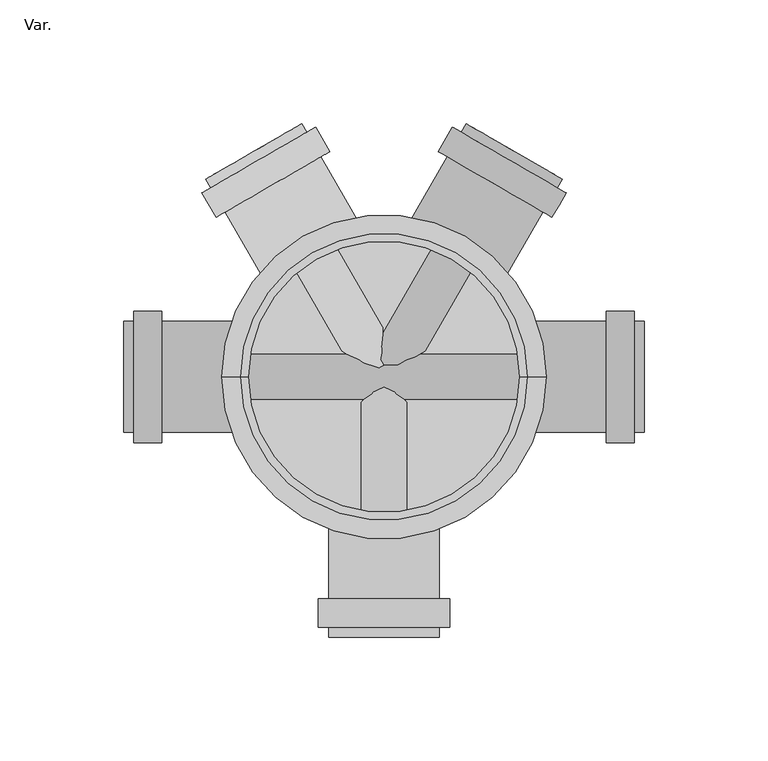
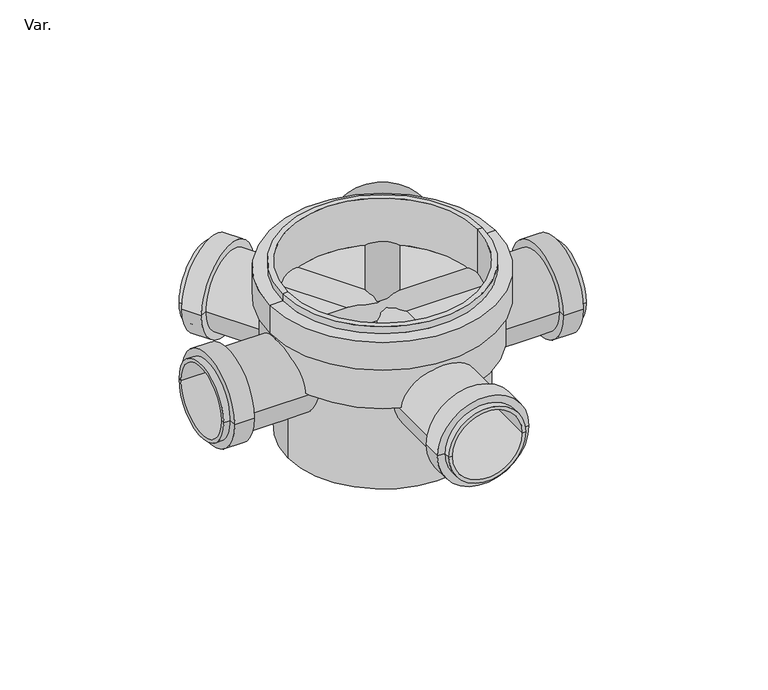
"""IFC4 building model written with IfcOpenShell, lengths in millimetres: pipe fitting geometry, Z_Amanco PP Silentium Pileta Giratoria 5 Entradas (Nested) : Var.."""

from ifc_helpers import new_model, si_unit, frame, origin, place, context, project, spatial, polyline, circle_curve, source, transform, mapped, element, save
from ifc_brep_helpers import plane_surface, cylinder_surface, revolved_surface, advanced_brep


def var_e0a8e4cc(model_context):
    return source(origin(), model_context, "Body", "AdvancedBrep", [
        advanced_brep(
        [(62.15, -20.4, -52.1), (62.15, 20.4, -52.1), (62.15, 0.0, -52.1), (105.15, -20.4, -52.1), (105.15, 20.4, -52.1), (105.15, -22.35, -52.1), (105.15, 22.35, -52.1), (101.15, -22.35, -52.1), (101.15, 22.35, -52.1), (101.15, -26.55, -52.1), (101.15, 26.55, -52.1), (89.75, -26.55, -52.1), (89.75, 26.55, -52.1), (89.75, -22.35, -52.1), (89.75, 22.35, -52.1), (-89.75, -22.35, -52.1), (-89.75, 22.35, -52.1), (-89.75, -26.55, -52.1), (-89.75, 26.55, -52.1), (-101.15, -26.55, -52.1), (-101.15, 26.55, -52.1), (-101.15, -22.35, -52.1), (-101.15, 22.35, -52.1), (-105.15, -22.35, -52.1), (-105.15, 22.35, -52.1), (-105.15, -20.4, -52.1), (-105.15, 20.4, -52.1), (-62.15, -20.4, -52.1), (-62.15, 20.4, -52.1), (-62.15, 0.0, -52.1)],
        [
            (0, 1, circle_curve(frame((62.15, 0.0, -52.1), z_axis=(1.0, 0.0, 0.0), x_axis=(0.0, 1.0, 0.0)), 20.4)),
            (1, 2),
            (2, 0),
            (1, 0, circle_curve(frame((62.15, 0.0, -52.1), z_axis=(1.0, 0.0, 0.0), x_axis=(0.0, 1.0, 0.0)), 20.4)),
            (3, 4, circle_curve(frame((105.15, 0.0, -52.1), z_axis=(1.0, 0.0, 0.0), x_axis=(0.0, 1.0, 0.0)), 20.4)),
            (4, 1),
            (0, 3),
            (4, 3, circle_curve(frame((105.15, 0.0, -52.1), z_axis=(1.0, 0.0, 0.0), x_axis=(0.0, 1.0, 0.0)), 20.4)),
            (5, 6, circle_curve(frame((105.15, 0.0, -52.1), z_axis=(1.0, 0.0, 0.0), x_axis=(0.0, 1.0, 0.0)), 22.35)),
            (6, 4),
            (3, 5),
            (6, 5, circle_curve(frame((105.15, 0.0, -52.1), z_axis=(1.0, 0.0, 0.0), x_axis=(0.0, 1.0, 0.0)), 22.35)),
            (7, 8, circle_curve(frame((101.15, 0.0, -52.1), z_axis=(1.0, 0.0, 0.0), x_axis=(0.0, 1.0, 0.0)), 22.35)),
            (8, 6),
            (5, 7),
            (8, 7, circle_curve(frame((101.15, 0.0, -52.1), z_axis=(1.0, 0.0, 0.0), x_axis=(0.0, 1.0, 0.0)), 22.35)),
            (9, 10, circle_curve(frame((101.15, 0.0, -52.1), z_axis=(1.0, 0.0, 0.0), x_axis=(0.0, 1.0, 0.0)), 26.55)),
            (10, 8),
            (7, 9),
            (10, 9, circle_curve(frame((101.15, 0.0, -52.1), z_axis=(1.0, 0.0, 0.0), x_axis=(0.0, 1.0, 0.0)), 26.55)),
            (11, 12, circle_curve(frame((89.75, 0.0, -52.1), z_axis=(1.0, 0.0, 0.0), x_axis=(0.0, 1.0, 0.0)), 26.55)),
            (12, 10),
            (9, 11),
            (12, 11, circle_curve(frame((89.75, 0.0, -52.1), z_axis=(1.0, 0.0, 0.0), x_axis=(0.0, 1.0, 0.0)), 26.55)),
            (13, 14, circle_curve(frame((89.75, 0.0, -52.1), z_axis=(1.0, 0.0, 0.0), x_axis=(0.0, 1.0, 0.0)), 22.35)),
            (14, 12),
            (11, 13),
            (14, 13, circle_curve(frame((89.75, 0.0, -52.1), z_axis=(1.0, 0.0, 0.0), x_axis=(0.0, 1.0, 0.0)), 22.35)),
            (15, 16, circle_curve(frame((-89.75, 0.0, -52.1), z_axis=(1.0, 0.0, 0.0), x_axis=(0.0, 1.0, 0.0)), 22.35)),
            (16, 14),
            (13, 15),
            (16, 15, circle_curve(frame((-89.75, 0.0, -52.1), z_axis=(1.0, 0.0, 0.0), x_axis=(0.0, 1.0, 0.0)), 22.35)),
            (17, 18, circle_curve(frame((-89.75, 0.0, -52.1), z_axis=(1.0, 0.0, 0.0), x_axis=(0.0, 1.0, 0.0)), 26.55)),
            (18, 16),
            (15, 17),
            (18, 17, circle_curve(frame((-89.75, 0.0, -52.1), z_axis=(1.0, 0.0, 0.0), x_axis=(0.0, 1.0, 0.0)), 26.55)),
            (19, 20, circle_curve(frame((-101.15, 0.0, -52.1), z_axis=(1.0, 0.0, 0.0), x_axis=(0.0, 1.0, 0.0)), 26.55)),
            (20, 18),
            (17, 19),
            (20, 19, circle_curve(frame((-101.15, 0.0, -52.1), z_axis=(1.0, 0.0, 0.0), x_axis=(0.0, 1.0, 0.0)), 26.55)),
            (21, 22, circle_curve(frame((-101.15, 0.0, -52.1), z_axis=(1.0, 0.0, 0.0), x_axis=(0.0, 1.0, 0.0)), 22.35)),
            (22, 20),
            (19, 21),
            (22, 21, circle_curve(frame((-101.15, 0.0, -52.1), z_axis=(1.0, 0.0, 0.0), x_axis=(0.0, 1.0, 0.0)), 22.35)),
            (23, 24, circle_curve(frame((-105.15, 0.0, -52.1), z_axis=(1.0, 0.0, 0.0), x_axis=(0.0, 1.0, 0.0)), 22.35)),
            (24, 22),
            (21, 23),
            (24, 23, circle_curve(frame((-105.15, 0.0, -52.1), z_axis=(1.0, 0.0, 0.0), x_axis=(0.0, 1.0, 0.0)), 22.35)),
            (25, 26, circle_curve(frame((-105.15, 0.0, -52.1), z_axis=(1.0, 0.0, 0.0), x_axis=(0.0, 1.0, 0.0)), 20.4)),
            (26, 24),
            (23, 25),
            (26, 25, circle_curve(frame((-105.15, 0.0, -52.1), z_axis=(1.0, 0.0, 0.0), x_axis=(0.0, 1.0, 0.0)), 20.4)),
            (27, 28, circle_curve(frame((-62.15, 0.0, -52.1), z_axis=(1.0, 0.0, 0.0), x_axis=(0.0, 1.0, 0.0)), 20.4)),
            (28, 26),
            (25, 27),
            (28, 27, circle_curve(frame((-62.15, 0.0, -52.1), z_axis=(1.0, 0.0, 0.0), x_axis=(0.0, 1.0, 0.0)), 20.4)),
            (29, 28),
            (27, 29),
        ],
        [
            plane_surface(frame((62.15, 0.0, -52.1), z_axis=(1.0, 0.0, 0.0), x_axis=(0.0, 1.0, 0.0))),
            revolved_surface(polyline([(62.15, 20.4, -52.1), (105.15, 20.4, -52.1)]), (62.15, 0.0, -52.1), (-1.0, 0.0, 0.0)),
            plane_surface(frame((105.15, 0.0, -52.1), z_axis=(1.0, 0.0, 0.0), x_axis=(0.0, 1.0, 0.0))),
            cylinder_surface(frame((62.15, 0.0, -52.1), z_axis=(-1.0, 0.0, 0.0), x_axis=(0.0, 1.0, 0.0)), 22.35),
            plane_surface(frame((101.15, 0.0, -52.1), z_axis=(1.0, 0.0, 0.0), x_axis=(0.0, 1.0, 0.0))),
            cylinder_surface(frame((62.15, 0.0, -52.1), z_axis=(-1.0, 0.0, 0.0), x_axis=(0.0, 1.0, 0.0)), 26.55),
            plane_surface(frame((89.75, 0.0, -52.1), z_axis=(-1.0, 0.0, 0.0), x_axis=(0.0, 1.0, 0.0))),
            plane_surface(frame((-89.75, 0.0, -52.1), z_axis=(1.0, 0.0, 0.0), x_axis=(0.0, 1.0, 0.0))),
            plane_surface(frame((-101.15, 0.0, -52.1), z_axis=(-1.0, 0.0, 0.0), x_axis=(0.0, 1.0, 0.0))),
            plane_surface(frame((-105.15, 0.0, -52.1), z_axis=(-1.0, 0.0, 0.0), x_axis=(0.0, 1.0, 0.0))),
            revolved_surface(polyline([(-105.15, 20.4, -52.1), (-62.15, 20.4, -52.1)]), (62.15, 0.0, -52.1), (-1.0, 0.0, 0.0)),
            plane_surface(frame((-62.15, 0.0, -52.1), z_axis=(-1.0, 0.0, 0.0), x_axis=(0.0, 1.0, 0.0))),
        ],
        [
            (0, [[1, 2, 3]]),
            (0, [[4, -3, -2]]),
            (1, [[5, 6, -1, 7]]),
            (1, [[8, -7, -4, -6]]),
            (2, [[9, 10, -5, 11]]),
            (2, [[12, -11, -8, -10]]),
            (3, [[13, 14, -9, 15]]),
            (3, [[16, -15, -12, -14]]),
            (4, [[17, 18, -13, 19]]),
            (4, [[20, -19, -16, -18]]),
            (5, [[21, 22, -17, 23]]),
            (5, [[24, -23, -20, -22]]),
            (6, [[25, 26, -21, 27]]),
            (6, [[28, -27, -24, -26]]),
            (3, [[29, 30, -25, 31]]),
            (3, [[32, -31, -28, -30]]),
            (7, [[33, 34, -29, 35]]),
            (7, [[36, -35, -32, -34]]),
            (5, [[37, 38, -33, 39]]),
            (5, [[40, -39, -36, -38]]),
            (8, [[41, 42, -37, 43]]),
            (8, [[44, -43, -40, -42]]),
            (3, [[45, 46, -41, 47]]),
            (3, [[48, -47, -44, -46]]),
            (9, [[49, 50, -45, 51]]),
            (9, [[52, -51, -48, -50]]),
            (10, [[53, 54, -49, 55]]),
            (10, [[56, -55, -52, -54]]),
            (11, [[57, -53, 58]]),
            (11, [[-58, -56, -57]]),
        ],
    ),
        advanced_brep(
        [(-19.3556678, 11.175, -52.1), (19.3556678, -11.175, -52.1), (0.0, 0.0, -52.1), (25.5193322, 88.90078, -52.1), (64.2306678, 66.55078, -52.1), (21.8820255, 91.00078, -52.1), (67.8679745, 64.45078, -52.1), (27.5820255, 100.8734696, -52.1), (73.5679745, 74.3234696, -52.1), (31.2193322, 98.7734696, -52.1), (69.9306678, 76.4234696, -52.1), (33.2193322, 102.2375712, -52.1), (71.9306678, 79.8875712, -52.1), (34.9080818, 101.2625712, -52.1), (70.2419182, 80.8625712, -52.1), (13.4080818, 64.0234788, -52.1), (48.7419182, 43.6234788, -52.1), (31.075, 53.8234788, -52.1)],
        [
            (0, 1, circle_curve(frame((0.0, 0.0, -52.1), z_axis=(-0.5000000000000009, -0.8660254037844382, 0.0), x_axis=(0.8660254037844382, -0.5000000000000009, 0.0)), 22.35)),
            (1, 2),
            (2, 0),
            (1, 0, circle_curve(frame((0.0, 0.0, -52.1), z_axis=(-0.5000000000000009, -0.8660254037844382, 0.0), x_axis=(0.8660254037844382, -0.5000000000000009, 0.0)), 22.35)),
            (3, 4, circle_curve(frame((44.875, 77.72578, -52.1), z_axis=(-0.5000000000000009, -0.8660254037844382, 0.0), x_axis=(0.8660254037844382, -0.5000000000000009, 0.0)), 22.35)),
            (4, 1),
            (0, 3),
            (4, 3, circle_curve(frame((44.875, 77.72578, -52.1), z_axis=(-0.5000000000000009, -0.8660254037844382, 0.0), x_axis=(0.8660254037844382, -0.5000000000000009, 0.0)), 22.35)),
            (5, 6, circle_curve(frame((44.875, 77.72578, -52.1), z_axis=(-0.5000000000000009, -0.8660254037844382, 0.0), x_axis=(0.8660254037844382, -0.5000000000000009, 0.0)), 26.55)),
            (6, 4),
            (3, 5),
            (6, 5, circle_curve(frame((44.875, 77.72578, -52.1), z_axis=(-0.5000000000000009, -0.8660254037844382, 0.0), x_axis=(0.8660254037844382, -0.5000000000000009, 0.0)), 26.55)),
            (7, 8, circle_curve(frame((50.575, 87.5984696, -52.1), z_axis=(-0.5000000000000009, -0.8660254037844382, 0.0), x_axis=(0.8660254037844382, -0.5000000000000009, 0.0)), 26.55)),
            (8, 6),
            (5, 7),
            (8, 7, circle_curve(frame((50.575, 87.5984696, -52.1), z_axis=(-0.5000000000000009, -0.8660254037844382, 0.0), x_axis=(0.8660254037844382, -0.5000000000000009, 0.0)), 26.55)),
            (9, 10, circle_curve(frame((50.575, 87.5984696, -52.1), z_axis=(-0.5000000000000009, -0.8660254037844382, 0.0), x_axis=(0.8660254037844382, -0.5000000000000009, 0.0)), 22.35)),
            (10, 8),
            (7, 9),
            (10, 9, circle_curve(frame((50.575, 87.5984696, -52.1), z_axis=(-0.5000000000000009, -0.8660254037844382, 0.0), x_axis=(0.8660254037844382, -0.5000000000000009, 0.0)), 22.35)),
            (11, 12, circle_curve(frame((52.575, 91.0625712, -52.1), z_axis=(-0.5000000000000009, -0.8660254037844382, 0.0), x_axis=(0.8660254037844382, -0.5000000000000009, 0.0)), 22.35)),
            (12, 10),
            (9, 11),
            (12, 11, circle_curve(frame((52.575, 91.0625712, -52.1), z_axis=(-0.5000000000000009, -0.8660254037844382, 0.0), x_axis=(0.8660254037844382, -0.5000000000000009, 0.0)), 22.35)),
            (13, 14, circle_curve(frame((52.575, 91.0625712, -52.1), z_axis=(-0.5000000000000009, -0.8660254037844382, 0.0), x_axis=(0.8660254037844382, -0.5000000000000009, 0.0)), 20.4)),
            (14, 12),
            (11, 13),
            (14, 13, circle_curve(frame((52.575, 91.0625712, -52.1), z_axis=(-0.5000000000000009, -0.8660254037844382, 0.0), x_axis=(0.8660254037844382, -0.5000000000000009, 0.0)), 20.4)),
            (15, 16, circle_curve(frame((31.075, 53.8234788, -52.1), z_axis=(-0.5000000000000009, -0.8660254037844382, 0.0), x_axis=(0.8660254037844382, -0.5000000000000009, 0.0)), 20.4)),
            (16, 14),
            (13, 15),
            (16, 15, circle_curve(frame((31.075, 53.8234788, -52.1), z_axis=(-0.5000000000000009, -0.8660254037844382, 0.0), x_axis=(0.8660254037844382, -0.5000000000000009, 0.0)), 20.4)),
            (17, 16),
            (15, 17),
        ],
        [
            plane_surface(frame((0.0, 0.0, -52.1), z_axis=(-0.5000000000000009, -0.8660254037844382, 0.0), x_axis=(0.8660254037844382, -0.5000000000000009, 0.0))),
            cylinder_surface(frame((0.0, 0.0, -52.1), z_axis=(0.5000000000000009, 0.8660254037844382, 0.0), x_axis=(0.8660254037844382, -0.5000000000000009, 0.0)), 22.35),
            plane_surface(frame((44.875, 77.72578, -52.1), z_axis=(-0.5000000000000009, -0.8660254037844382, 0.0), x_axis=(0.8660254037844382, -0.5000000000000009, 0.0))),
            cylinder_surface(frame((0.0, 0.0, -52.1), z_axis=(0.5000000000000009, 0.8660254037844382, 0.0), x_axis=(0.8660254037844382, -0.5000000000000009, 0.0)), 26.55),
            plane_surface(frame((50.575, 87.5984696, -52.1), z_axis=(0.5000000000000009, 0.8660254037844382, 0.0), x_axis=(0.8660254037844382, -0.5000000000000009, 0.0))),
            plane_surface(frame((52.575, 91.0625712, -52.1), z_axis=(0.5000000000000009, 0.8660254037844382, 0.0), x_axis=(0.8660254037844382, -0.5000000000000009, 0.0))),
            revolved_surface(polyline([(70.24191824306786, 80.86257121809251, -52.1), (48.741918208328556, 43.62347879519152, -52.1)]), (0.0, 0.0, -52.1), (0.5000000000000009, 0.8660254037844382, 0.0)),
            plane_surface(frame((31.075, 53.8234788, -52.1), z_axis=(0.5000000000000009, 0.8660254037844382, 0.0), x_axis=(0.8660254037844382, -0.5000000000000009, 0.0))),
        ],
        [
            (0, [[1, 2, 3]]),
            (0, [[4, -3, -2]]),
            (1, [[5, 6, -1, 7]]),
            (1, [[8, -7, -4, -6]]),
            (2, [[9, 10, -5, 11]]),
            (2, [[12, -11, -8, -10]]),
            (3, [[13, 14, -9, 15]]),
            (3, [[16, -15, -12, -14]]),
            (4, [[17, 18, -13, 19]]),
            (4, [[20, -19, -16, -18]]),
            (1, [[21, 22, -17, 23]]),
            (1, [[24, -23, -20, -22]]),
            (5, [[25, 26, -21, 27]]),
            (5, [[28, -27, -24, -26]]),
            (6, [[29, 30, -25, 31]]),
            (6, [[32, -31, -28, -30]]),
            (7, [[33, -29, 34]]),
            (7, [[-34, -32, -33]]),
        ],
    ),
        advanced_brep(
        [(-13.4080818, 64.0234788, -52.1), (-48.7419182, 43.6234788, -52.1), (-31.075, 53.8234788, -52.1), (-34.9080818, 101.2625712, -52.1), (-70.2419182, 80.8625712, -52.1), (-33.2193322, 102.2375712, -52.1), (-71.9306678, 79.8875712, -52.1), (-31.2193322, 98.7734696, -52.1), (-69.9306678, 76.4234696, -52.1), (-27.5820255, 100.8734696, -52.1), (-73.5679745, 74.3234696, -52.1), (-21.8820255, 91.00078, -52.1), (-67.8679745, 64.45078, -52.1), (-25.5193322, 88.90078, -52.1), (-64.2306678, 66.55078, -52.1), (19.3556678, 11.175, -52.1), (-19.3556678, -11.175, -52.1), (0.0, 0.0, -52.1)],
        [
            (0, 1, circle_curve(frame((-31.075, 53.8234788, -52.1), z_axis=(-0.5000000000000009, 0.8660254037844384, 0.0), x_axis=(-0.8660254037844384, -0.5000000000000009, 0.0)), 20.4)),
            (1, 2),
            (2, 0),
            (1, 0, circle_curve(frame((-31.075, 53.8234788, -52.1), z_axis=(-0.5000000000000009, 0.8660254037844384, 0.0), x_axis=(-0.8660254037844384, -0.5000000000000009, 0.0)), 20.4)),
            (3, 4, circle_curve(frame((-52.575, 91.0625712, -52.1), z_axis=(-0.5000000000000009, 0.8660254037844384, 0.0), x_axis=(-0.8660254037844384, -0.5000000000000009, 0.0)), 20.4)),
            (4, 1),
            (0, 3),
            (4, 3, circle_curve(frame((-52.575, 91.0625712, -52.1), z_axis=(-0.5000000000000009, 0.8660254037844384, 0.0), x_axis=(-0.8660254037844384, -0.5000000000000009, 0.0)), 20.4)),
            (5, 6, circle_curve(frame((-52.575, 91.0625712, -52.1), z_axis=(-0.5000000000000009, 0.8660254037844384, 0.0), x_axis=(-0.8660254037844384, -0.5000000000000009, 0.0)), 22.35)),
            (6, 4),
            (3, 5),
            (6, 5, circle_curve(frame((-52.575, 91.0625712, -52.1), z_axis=(-0.5000000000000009, 0.8660254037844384, 0.0), x_axis=(-0.8660254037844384, -0.5000000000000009, 0.0)), 22.35)),
            (7, 8, circle_curve(frame((-50.575, 87.5984696, -52.1), z_axis=(-0.5000000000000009, 0.8660254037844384, 0.0), x_axis=(-0.8660254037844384, -0.5000000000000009, 0.0)), 22.35)),
            (8, 6),
            (5, 7),
            (8, 7, circle_curve(frame((-50.575, 87.5984696, -52.1), z_axis=(-0.5000000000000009, 0.8660254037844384, 0.0), x_axis=(-0.8660254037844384, -0.5000000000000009, 0.0)), 22.35)),
            (9, 10, circle_curve(frame((-50.575, 87.5984696, -52.1), z_axis=(-0.5000000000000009, 0.8660254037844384, 0.0), x_axis=(-0.8660254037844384, -0.5000000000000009, 0.0)), 26.55)),
            (10, 8),
            (7, 9),
            (10, 9, circle_curve(frame((-50.575, 87.5984696, -52.1), z_axis=(-0.5000000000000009, 0.8660254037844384, 0.0), x_axis=(-0.8660254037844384, -0.5000000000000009, 0.0)), 26.55)),
            (11, 12, circle_curve(frame((-44.875, 77.72578, -52.1), z_axis=(-0.5000000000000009, 0.8660254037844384, 0.0), x_axis=(-0.8660254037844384, -0.5000000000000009, 0.0)), 26.55)),
            (12, 10),
            (9, 11),
            (12, 11, circle_curve(frame((-44.875, 77.72578, -52.1), z_axis=(-0.5000000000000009, 0.8660254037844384, 0.0), x_axis=(-0.8660254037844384, -0.5000000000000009, 0.0)), 26.55)),
            (13, 14, circle_curve(frame((-44.875, 77.72578, -52.1), z_axis=(-0.5000000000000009, 0.8660254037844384, 0.0), x_axis=(-0.8660254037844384, -0.5000000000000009, 0.0)), 22.35)),
            (14, 12),
            (11, 13),
            (14, 13, circle_curve(frame((-44.875, 77.72578, -52.1), z_axis=(-0.5000000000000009, 0.8660254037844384, 0.0), x_axis=(-0.8660254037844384, -0.5000000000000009, 0.0)), 22.35)),
            (15, 16, circle_curve(frame((0.0, 0.0, -52.1), z_axis=(-0.5000000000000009, 0.8660254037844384, 0.0), x_axis=(-0.8660254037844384, -0.5000000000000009, 0.0)), 22.35)),
            (16, 14),
            (13, 15),
            (16, 15, circle_curve(frame((0.0, 0.0, -52.1), z_axis=(-0.5000000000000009, 0.8660254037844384, 0.0), x_axis=(-0.8660254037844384, -0.5000000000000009, 0.0)), 22.35)),
            (17, 16),
            (15, 17),
        ],
        [
            plane_surface(frame((-31.075, 53.8234788, -52.1), z_axis=(-0.5000000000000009, 0.8660254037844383, 0.0), x_axis=(-0.8660254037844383, -0.5000000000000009, 0.0))),
            revolved_surface(polyline([(-48.741918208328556, 43.62347879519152, -52.1), (-70.24191824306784, 80.86257121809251, -52.1)]), (0.0, 0.0, -52.1), (0.5000000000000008, -0.8660254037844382, 0.0)),
            plane_surface(frame((-52.575, 91.0625712, -52.1), z_axis=(-0.5000000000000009, 0.8660254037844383, 0.0), x_axis=(-0.8660254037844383, -0.5000000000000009, 0.0))),
            cylinder_surface(frame((0.0, 0.0, -52.1), z_axis=(0.5000000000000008, -0.8660254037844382, 0.0), x_axis=(-0.8660254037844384, -0.5000000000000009, 0.0)), 22.35),
            plane_surface(frame((-50.575, 87.5984696, -52.1), z_axis=(-0.5000000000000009, 0.8660254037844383, 0.0), x_axis=(-0.8660254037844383, -0.5000000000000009, 0.0))),
            cylinder_surface(frame((0.0, 0.0, -52.1), z_axis=(0.5000000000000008, -0.8660254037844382, 0.0), x_axis=(-0.8660254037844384, -0.5000000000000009, 0.0)), 26.55),
            plane_surface(frame((-44.875, 77.72578, -52.1), z_axis=(0.5000000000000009, -0.8660254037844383, 0.0), x_axis=(-0.8660254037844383, -0.5000000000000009, 0.0))),
            plane_surface(frame((0.0, 0.0, -52.1), z_axis=(0.5000000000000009, -0.8660254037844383, 0.0), x_axis=(-0.8660254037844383, -0.5000000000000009, 0.0))),
        ],
        [
            (0, [[1, 2, 3]]),
            (0, [[4, -3, -2]]),
            (1, [[5, 6, -1, 7]]),
            (1, [[8, -7, -4, -6]]),
            (2, [[9, 10, -5, 11]]),
            (2, [[12, -11, -8, -10]]),
            (3, [[13, 14, -9, 15]]),
            (3, [[16, -15, -12, -14]]),
            (4, [[17, 18, -13, 19]]),
            (4, [[20, -19, -16, -18]]),
            (5, [[21, 22, -17, 23]]),
            (5, [[24, -23, -20, -22]]),
            (6, [[25, 26, -21, 27]]),
            (6, [[28, -27, -24, -26]]),
            (3, [[29, 30, -25, 31]]),
            (3, [[32, -31, -28, -30]]),
            (7, [[33, -29, 34]]),
            (7, [[-34, -32, -33]]),
        ],
    ),
        advanced_brep(
        [(20.4, -105.15, -52.1), (-20.4, -105.15, -52.1), (-22.35, -105.15, -52.1), (22.35, -105.15, -52.1), (20.4, -62.15, -52.1), (-20.4, -62.15, -52.1), (0.0, -62.15, -52.1), (22.35, 0.0, -52.1), (-22.35, 0.0, -52.1), (0.0, 0.0, -52.1), (22.35, -89.75, -52.1), (-22.35, -89.75, -52.1), (26.55, -89.75, -52.1), (-26.55, -89.75, -52.1), (26.55, -101.15, -52.1), (-26.55, -101.15, -52.1), (22.35, -101.15, -52.1), (-22.35, -101.15, -52.1)],
        [
            (0, 1, circle_curve(frame((0.0, -105.15, -52.1), z_axis=(0.0, 1.0, 0.0), x_axis=(-1.0, 0.0, 0.0)), 20.4)),
            (1, 2),
            (2, 3, circle_curve(frame((0.0, -105.15, -52.1), z_axis=(0.0, -1.0, 0.0), x_axis=(-1.0, 0.0, 0.0)), 22.35)),
            (3, 0),
            (1, 0, circle_curve(frame((0.0, -105.15, -52.1), z_axis=(0.0, 1.0, 0.0), x_axis=(-1.0, 0.0, 0.0)), 20.4)),
            (3, 2, circle_curve(frame((0.0, -105.15, -52.1), z_axis=(0.0, -1.0, 0.0), x_axis=(-1.0, 0.0, 0.0)), 22.35)),
            (4, 5, circle_curve(frame((0.0, -62.15, -52.1), z_axis=(0.0, 1.0, 0.0), x_axis=(-1.0, 0.0, 0.0)), 20.4)),
            (5, 1),
            (0, 4),
            (5, 4, circle_curve(frame((0.0, -62.15, -52.1), z_axis=(0.0, 1.0, 0.0), x_axis=(-1.0, 0.0, 0.0)), 20.4)),
            (6, 5),
            (4, 6),
            (7, 8, circle_curve(frame((0.0, 0.0, -52.1), z_axis=(0.0, 1.0, 0.0), x_axis=(-1.0, 0.0, 0.0)), 22.35)),
            (8, 9),
            (9, 7),
            (8, 7, circle_curve(frame((0.0, 0.0, -52.1), z_axis=(0.0, 1.0, 0.0), x_axis=(-1.0, 0.0, 0.0)), 22.35)),
            (10, 11, circle_curve(frame((0.0, -89.75, -52.1), z_axis=(0.0, 1.0, 0.0), x_axis=(-1.0, 0.0, 0.0)), 22.35)),
            (11, 8),
            (7, 10),
            (11, 10, circle_curve(frame((0.0, -89.75, -52.1), z_axis=(0.0, 1.0, 0.0), x_axis=(-1.0, 0.0, 0.0)), 22.35)),
            (12, 13, circle_curve(frame((0.0, -89.75, -52.1), z_axis=(0.0, 1.0, 0.0), x_axis=(-1.0, 0.0, 0.0)), 26.55)),
            (13, 11),
            (10, 12),
            (13, 12, circle_curve(frame((0.0, -89.75, -52.1), z_axis=(0.0, 1.0, 0.0), x_axis=(-1.0, 0.0, 0.0)), 26.55)),
            (14, 15, circle_curve(frame((0.0, -101.15, -52.1), z_axis=(0.0, 1.0, 0.0), x_axis=(-1.0, 0.0, 0.0)), 26.55)),
            (15, 13),
            (12, 14),
            (15, 14, circle_curve(frame((0.0, -101.15, -52.1), z_axis=(0.0, 1.0, 0.0), x_axis=(-1.0, 0.0, 0.0)), 26.55)),
            (16, 17, circle_curve(frame((0.0, -101.15, -52.1), z_axis=(0.0, 1.0, 0.0), x_axis=(-1.0, 0.0, 0.0)), 22.35)),
            (17, 15),
            (14, 16),
            (17, 16, circle_curve(frame((0.0, -101.15, -52.1), z_axis=(0.0, 1.0, 0.0), x_axis=(-1.0, 0.0, 0.0)), 22.35)),
            (2, 17),
            (16, 3),
        ],
        [
            plane_surface(frame((0.0, -105.15, -52.1), z_axis=(0.0, -1.0, 0.0), x_axis=(-1.0, 0.0, 0.0))),
            revolved_surface(polyline([(-20.4, -105.15000000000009, -52.1), (-20.4, -62.15000000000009, -52.1)]), (0.0, 2000.0, -52.1), (0.0, -1.0, 0.0)),
            plane_surface(frame((0.0, -62.15, -52.1), z_axis=(0.0, -1.0, 0.0), x_axis=(-1.0, 0.0, 0.0))),
            plane_surface(frame((0.0, 0.0, -52.1), z_axis=(0.0, 1.0, 0.0), x_axis=(-1.0, 0.0, 0.0))),
            cylinder_surface(frame((0.0, 2000.0, -52.1), z_axis=(0.0, -1.0, 0.0), x_axis=(-1.0, 0.0, 0.0)), 22.35),
            plane_surface(frame((0.0, -89.75, -52.1), z_axis=(0.0, 1.0, 0.0), x_axis=(-1.0, 0.0, 0.0))),
            cylinder_surface(frame((0.0, 2000.0, -52.1), z_axis=(0.0, -1.0, 0.0), x_axis=(-1.0, 0.0, 0.0)), 26.55),
            plane_surface(frame((0.0, -101.15, -52.1), z_axis=(0.0, -1.0, 0.0), x_axis=(-1.0, 0.0, 0.0))),
        ],
        [
            (0, [[1, 2, 3, 4]]),
            (0, [[5, -4, 6, -2]]),
            (1, [[7, 8, -1, 9]]),
            (1, [[10, -9, -5, -8]]),
            (2, [[11, -7, 12]]),
            (2, [[-12, -10, -11]]),
            (3, [[13, 14, 15]]),
            (3, [[16, -15, -14]]),
            (4, [[17, 18, -13, 19]]),
            (4, [[20, -19, -16, -18]]),
            (5, [[21, 22, -17, 23]]),
            (5, [[24, -23, -20, -22]]),
            (6, [[25, 26, -21, 27]]),
            (6, [[28, -27, -24, -26]]),
            (7, [[29, 30, -25, 31]]),
            (7, [[32, -31, -28, -30]]),
            (4, [[-3, 33, -29, 34]]),
            (4, [[-6, -34, -32, -33]]),
        ],
    ),
        advanced_brep(
        [(65.5, 0.0, -7.3883414), (-65.5, 0.0, -7.3883414), (-57.9, 0.0, -7.3883414), (57.9, 0.0, -7.3883414), (65.5, 0.0, -24.3883414), (-65.5, 0.0, -24.3883414), (62.15, 0.0, -24.3883414), (-62.15, 0.0, -24.3883414), (62.15, 0.0, -50.1883414), (-62.15, 0.0, -50.1883414), (54.95, 0.0, -50.1883414), (-54.95, 0.0, -50.1883414), (54.95, 0.0, -104.6), (-54.95, 0.0, -104.6), (0.0, 0.0, -104.6), (54.85, 0.0, -31.3883414), (-54.85, 0.0, -31.3883414), (0.0, 0.0, -31.3883414), (54.85, 0.0, -2.9883414), (-54.85, 0.0, -2.9883414), (57.9, 0.0, -2.9883414), (-57.9, 0.0, -2.9883414)],
        [
            (0, 1, circle_curve(frame((0.0, 0.0, -7.3883414), z_axis=(0.0, 0.0, 1.0), x_axis=(-1.0, 0.0, 0.0)), 65.5)),
            (1, 2),
            (2, 3, circle_curve(frame((0.0, 0.0, -7.3883414), z_axis=(0.0, 0.0, -1.0), x_axis=(-1.0, 0.0, 0.0)), 57.9)),
            (3, 0),
            (1, 0, circle_curve(frame((0.0, 0.0, -7.3883414), z_axis=(0.0, 0.0, 1.0), x_axis=(-1.0, 0.0, 0.0)), 65.5)),
            (3, 2, circle_curve(frame((0.0, 0.0, -7.3883414), z_axis=(0.0, 0.0, -1.0), x_axis=(-1.0, 0.0, 0.0)), 57.9)),
            (4, 5, circle_curve(frame((0.0, 0.0, -24.3883414), z_axis=(0.0, 0.0, 1.0), x_axis=(-1.0, 0.0, 0.0)), 65.5)),
            (5, 1),
            (0, 4),
            (5, 4, circle_curve(frame((0.0, 0.0, -24.3883414), z_axis=(0.0, 0.0, 1.0), x_axis=(-1.0, 0.0, 0.0)), 65.5)),
            (6, 7, circle_curve(frame((0.0, 0.0, -24.3883414), z_axis=(0.0, 0.0, 1.0), x_axis=(-1.0, 0.0, 0.0)), 62.15)),
            (7, 5),
            (4, 6),
            (7, 6, circle_curve(frame((0.0, 0.0, -24.3883414), z_axis=(0.0, 0.0, 1.0), x_axis=(-1.0, 0.0, 0.0)), 62.15)),
            (8, 9, circle_curve(frame((0.0, 0.0, -50.1883414), z_axis=(0.0, 0.0, 1.0), x_axis=(-1.0, 0.0, 0.0)), 62.15)),
            (9, 7),
            (6, 8),
            (9, 8, circle_curve(frame((0.0, 0.0, -50.1883414), z_axis=(0.0, 0.0, 1.0), x_axis=(-1.0, 0.0, 0.0)), 62.15)),
            (10, 11, circle_curve(frame((0.0, 0.0, -50.1883414), z_axis=(0.0, 0.0, 1.0), x_axis=(-1.0, 0.0, 0.0)), 54.95)),
            (11, 9),
            (8, 10),
            (11, 10, circle_curve(frame((0.0, 0.0, -50.1883414), z_axis=(0.0, 0.0, 1.0), x_axis=(-1.0, 0.0, 0.0)), 54.95)),
            (12, 13, circle_curve(frame((0.0, 0.0, -104.6), z_axis=(0.0, 0.0, 1.0), x_axis=(-1.0, 0.0, 0.0)), 54.95)),
            (13, 11),
            (10, 12),
            (13, 12, circle_curve(frame((0.0, 0.0, -104.6), z_axis=(0.0, 0.0, 1.0), x_axis=(-1.0, 0.0, 0.0)), 54.95)),
            (14, 13),
            (12, 14),
            (15, 16, circle_curve(frame((0.0, 0.0, -31.3883414), z_axis=(0.0, 0.0, 1.0), x_axis=(-1.0, 0.0, 0.0)), 54.85)),
            (16, 17),
            (17, 15),
            (16, 15, circle_curve(frame((0.0, 0.0, -31.3883414), z_axis=(0.0, 0.0, 1.0), x_axis=(-1.0, 0.0, 0.0)), 54.85)),
            (18, 19, circle_curve(frame((0.0, 0.0, -2.9883414), z_axis=(0.0, 0.0, 1.0), x_axis=(-1.0, 0.0, 0.0)), 54.85)),
            (19, 16),
            (15, 18),
            (19, 18, circle_curve(frame((0.0, 0.0, -2.9883414), z_axis=(0.0, 0.0, 1.0), x_axis=(-1.0, 0.0, 0.0)), 54.85)),
            (20, 21, circle_curve(frame((0.0, 0.0, -2.9883414), z_axis=(0.0, 0.0, 1.0), x_axis=(-1.0, 0.0, 0.0)), 57.9)),
            (21, 19),
            (18, 20),
            (21, 20, circle_curve(frame((0.0, 0.0, -2.9883414), z_axis=(0.0, 0.0, 1.0), x_axis=(-1.0, 0.0, 0.0)), 57.9)),
            (2, 21),
            (20, 3),
        ],
        [
            plane_surface(frame((0.0, 0.0, -7.3883414), z_axis=(0.0, 0.0, 1.0), x_axis=(-1.0, 0.0, 0.0))),
            cylinder_surface(frame((0.0, 0.0, 2214.3150031), z_axis=(0.0, 0.0, -1.0), x_axis=(-1.0, 0.0, 0.0)), 65.5),
            plane_surface(frame((0.0, 0.0, -24.3883414), z_axis=(0.0, 0.0, -1.0), x_axis=(-1.0, 0.0, 0.0))),
            cylinder_surface(frame((0.0, 0.0, 2214.3150031), z_axis=(0.0, 0.0, -1.0), x_axis=(-1.0, 0.0, 0.0)), 62.15),
            plane_surface(frame((0.0, 0.0, -50.1883414), z_axis=(0.0, 0.0, -1.0), x_axis=(-1.0, 0.0, 0.0))),
            cylinder_surface(frame((0.0, 0.0, 2214.3150031), z_axis=(0.0, 0.0, -1.0), x_axis=(-1.0, 0.0, 0.0)), 54.95),
            plane_surface(frame((0.0, 0.0, -104.6), z_axis=(0.0, 0.0, -1.0), x_axis=(-1.0, 0.0, 0.0))),
            plane_surface(frame((0.0, 0.0, -31.3883414), z_axis=(0.0, 0.0, 1.0), x_axis=(-1.0, 0.0, 0.0))),
            revolved_surface(polyline([(-54.85, 0.0, -31.388341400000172), (-54.85, 0.0, -2.988341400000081)]), (0.0, 0.0, 2214.3150031), (0.0, 0.0, -1.0)),
            plane_surface(frame((0.0, 0.0, -2.9883414), z_axis=(0.0, 0.0, 1.0), x_axis=(-1.0, 0.0, 0.0))),
            cylinder_surface(frame((0.0, 0.0, 2214.3150031), z_axis=(0.0, 0.0, -1.0), x_axis=(-1.0, 0.0, 0.0)), 57.9),
        ],
        [
            (0, [[1, 2, 3, 4]]),
            (0, [[5, -4, 6, -2]]),
            (1, [[7, 8, -1, 9]]),
            (1, [[10, -9, -5, -8]]),
            (2, [[11, 12, -7, 13]]),
            (2, [[14, -13, -10, -12]]),
            (3, [[15, 16, -11, 17]]),
            (3, [[18, -17, -14, -16]]),
            (4, [[19, 20, -15, 21]]),
            (4, [[22, -21, -18, -20]]),
            (5, [[23, 24, -19, 25]]),
            (5, [[26, -25, -22, -24]]),
            (6, [[27, -23, 28]]),
            (6, [[-28, -26, -27]]),
            (7, [[29, 30, 31]]),
            (7, [[32, -31, -30]]),
            (8, [[33, 34, -29, 35]]),
            (8, [[36, -35, -32, -34]]),
            (9, [[37, 38, -33, 39]]),
            (9, [[40, -39, -36, -38]]),
            (10, [[-3, 41, -37, 42]]),
            (10, [[-6, -42, -40, -41]]),
        ],
    ),
    ])


if __name__ == "__main__":
    model = new_model("IFC4")
    model_context = context("Model", 3, world=origin())
    ifc_project = project(units=[si_unit("LENGTHUNIT", "METRE", prefix="MILLI")], contexts=[model_context])
    site = spatial("IfcSite", under=ifc_project)
    building = spatial("IfcBuilding", under=site)
    placement = place(None, origin())
    var_shape = var_e0a8e4cc(model_context)
    element("IfcPipeFitting", 1, ObjectType="Z_Amanco PP Silentium Pileta Giratoria 5 Entradas (Nested) : Var.", at=placement, inside=building, context=model_context, shape_type="MappedRepresentation", body=[
        mapped(var_shape, transform((0.0, 0.0, 0.0), x_axis=(1.0, 0.0, 0.0), y_axis=(0.0, 1.0, 0.0), z_axis=(0.0, 0.0, 1.0))),
    ])
    save(model, "model.ifc")
